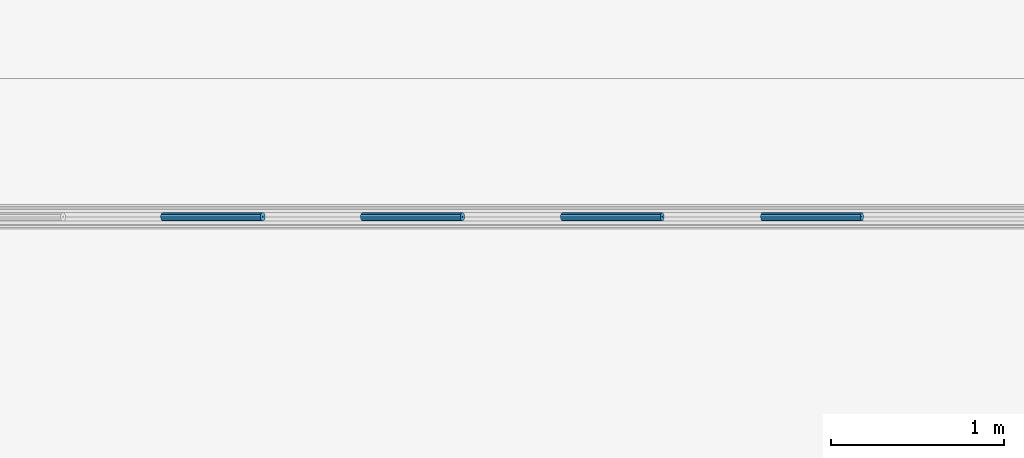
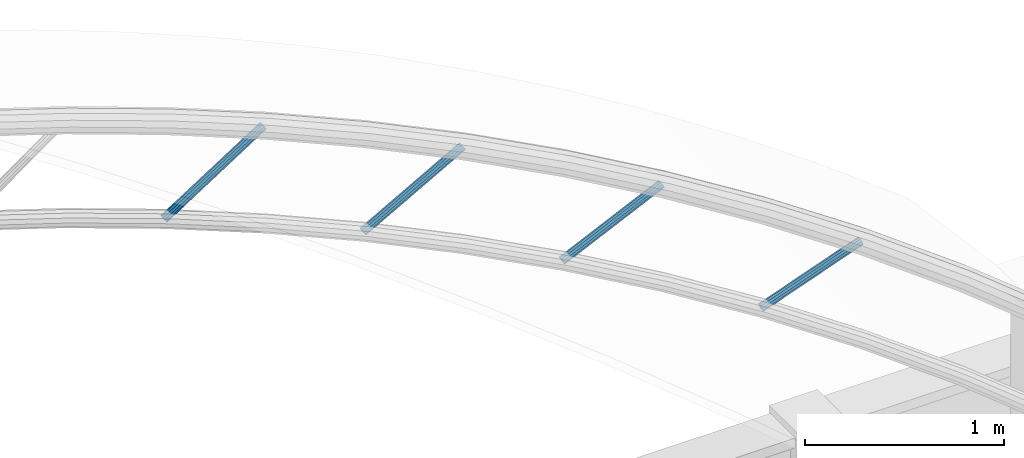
# One storey, part 31 of 151: 4 beams.
"""IFC2X3 building model written with IfcOpenShell, lengths in metres."""

from ifc_helpers import new_model, si_unit, origin, origin_with_axes, place, context, subcontext, project, spatial, faceted_brep, element, save


model = new_model("IFC2X3")

# Units and contexts
model_context = context("Model", 3, precision=1e-05, world=origin_with_axes())
body_context = subcontext(model_context, "Body", "Model", "MODEL_VIEW")
ifc_project = project(units=[si_unit("LENGTHUNIT", "METRE"), si_unit("AREAUNIT", "SQUARE_METRE"), si_unit("VOLUMEUNIT", "CUBIC_METRE"), si_unit("PLANEANGLEUNIT", "RADIAN")], contexts=[model_context])

# Site, building, storey
site_placement = place(None, origin_with_axes())
site = spatial("IfcSite", under=ifc_project, at=site_placement, Name="Predio Los Mangos - Morales, San Martín", CompositionType="ELEMENT")
building_placement = place(site_placement, origin())
building = spatial("IfcBuilding", under=site, at=building_placement, Name="Hogar de Refugio Temporal", CompositionType="ELEMENT")
storey_placement = place(building_placement, origin())
storey = spatial("IfcBuildingStorey", under=building, at=storey_placement, Name="NIVEL 1 (NPT +0.00)", CompositionType="ELEMENT", Elevation=0.0)

# Beams
beam_1_placement = place(storey_placement, origin())
element("IfcBeam", 1, at=beam_1_placement, inside=storey, Name="diag", ObjectType="Viga", context=body_context, shape_type="Brep", body=[
    faceted_brep([(21.3958, 127.0217, 8.401), (21.9733, 127.0217, 8.7715), (21.98, 127.025, 8.7609), (21.4025, 127.025, 8.3905), (21.3908, 127.0125, 8.4087), (21.9683, 127.0125, 8.7792), (21.389, 127.0, 8.4115), (21.9665, 127.0, 8.782), (21.3908, 126.9875, 8.4087), (21.9683, 126.9875, 8.7792), (21.3958, 126.9783, 8.401), (21.9733, 126.9783, 8.7715), (21.4025, 126.975, 8.3905), (21.98, 126.975, 8.7609), (21.4092, 126.9783, 8.38), (21.9867, 126.9783, 8.7504), (21.4142, 126.9875, 8.3723), (21.9917, 126.9875, 8.7427), (21.416, 127.0, 8.3695), (21.9935, 127.0, 8.7399), (21.4142, 127.0125, 8.3723), (21.9917, 127.0125, 8.7427), (21.4092, 127.0217, 8.38), (21.9867, 127.0217, 8.7504), (21.4013, 127.0037, 8.3923), (21.4025, 127.0043, 8.3905), (21.98, 127.0043, 8.7609), (21.9788, 127.0037, 8.7627), (21.4005, 127.0021, 8.3936), (21.978, 127.0021, 8.7641), (21.4002, 127.0, 8.3941), (21.9777, 127.0, 8.7645), (21.4005, 126.9979, 8.3936), (21.978, 126.9979, 8.7641), (21.4013, 126.9963, 8.3923), (21.9788, 126.9963, 8.7627), (21.4025, 126.9957, 8.3905), (21.98, 126.9957, 8.7609), (21.4037, 126.9963, 8.3887), (21.9812, 126.9963, 8.7591), (21.4045, 126.9979, 8.3874), (21.982, 126.9979, 8.7578), (21.4048, 127.0, 8.3869), (21.9823, 127.0, 8.7573), (21.4045, 127.0021, 8.3874), (21.982, 127.0021, 8.7578), (21.4037, 127.0037, 8.3887), (21.9812, 127.0037, 8.7591)], [[[0, 1, 2, 3]], [[4, 5, 1, 0]], [[6, 7, 5, 4]], [[8, 9, 7, 6]], [[10, 11, 9, 8]], [[12, 13, 11, 10]], [[14, 15, 13, 12]], [[16, 17, 15, 14]], [[18, 19, 17, 16]], [[20, 21, 19, 18]], [[22, 23, 21, 20]], [[3, 2, 23, 22]], [[24, 25, 26, 27]], [[28, 24, 27, 29]], [[30, 28, 29, 31]], [[32, 30, 31, 33]], [[34, 32, 33, 35]], [[36, 34, 35, 37]], [[38, 36, 37, 39]], [[40, 38, 39, 41]], [[42, 40, 41, 43]], [[44, 42, 43, 45]], [[46, 44, 45, 47]], [[25, 46, 47, 26]], [[23, 2, 26, 47]], [[10, 8, 32, 34]], [[20, 18, 42, 44]], [[1, 5, 29, 27]], [[13, 15, 39, 37]], [[6, 4, 28, 30]], [[16, 14, 38, 40]], [[0, 3, 25, 24]], [[9, 11, 35, 33]], [[19, 21, 45, 43]], [[12, 10, 34, 36]], [[22, 20, 44, 46]], [[5, 7, 31, 29]], [[15, 17, 41, 39]], [[2, 1, 27, 26]], [[8, 6, 30, 32]], [[18, 16, 40, 42]], [[11, 13, 37, 35]], [[21, 23, 47, 45]], [[4, 0, 24, 28]], [[14, 12, 36, 38]], [[3, 22, 46, 25]], [[7, 9, 33, 31]], [[17, 19, 43, 41]]]),
])
beam_2_placement = place(storey_placement, origin())
element("IfcBeam", 2, at=beam_2_placement, inside=storey, Name="diag", ObjectType="Viga", context=body_context, shape_type="Brep", body=[
    faceted_brep([(22.5514, 127.0217, 7.9187), (23.1289, 127.0217, 8.2407), (23.135, 127.025, 8.2298), (22.5575, 127.025, 7.9077), (22.547, 127.0125, 7.9267), (23.1245, 127.0125, 8.2487), (22.5453, 127.0, 7.9296), (23.1228, 127.0, 8.2517), (22.547, 126.9875, 7.9267), (23.1245, 126.9875, 8.2487), (22.5514, 126.9783, 7.9187), (23.1289, 126.9783, 8.2407), (22.5575, 126.975, 7.9077), (23.135, 126.975, 8.2298), (22.5636, 126.9783, 7.8968), (23.1411, 126.9783, 8.2189), (22.568, 126.9875, 7.8888), (23.1455, 126.9875, 8.2109), (22.5697, 127.0, 7.8859), (23.1472, 127.0, 8.208), (22.568, 127.0125, 7.8888), (23.1455, 127.0125, 8.2109), (22.5636, 127.0217, 7.8968), (23.1411, 127.0217, 8.2189), (22.5565, 127.0037, 7.9096), (22.5575, 127.0043, 7.9077), (23.135, 127.0043, 8.2298), (23.134, 127.0037, 8.2317), (22.5557, 127.0021, 7.911), (23.1332, 127.0021, 8.2331), (22.5554, 127.0, 7.9115), (23.1329, 127.0, 8.2336), (22.5557, 126.9979, 7.911), (23.1332, 126.9979, 8.2331), (22.5565, 126.9963, 7.9096), (23.134, 126.9963, 8.2317), (22.5575, 126.9957, 7.9077), (23.135, 126.9957, 8.2298), (22.5585, 126.9963, 7.9059), (23.136, 126.9963, 8.228), (22.5593, 126.9979, 7.9045), (23.1368, 126.9979, 8.2266), (22.5596, 127.0, 7.904), (23.1371, 127.0, 8.2261), (22.5593, 127.0021, 7.9045), (23.1368, 127.0021, 8.2266), (22.5585, 127.0037, 7.9059), (23.136, 127.0037, 8.228)], [[[0, 1, 2, 3]], [[4, 5, 1, 0]], [[6, 7, 5, 4]], [[8, 9, 7, 6]], [[10, 11, 9, 8]], [[12, 13, 11, 10]], [[14, 15, 13, 12]], [[16, 17, 15, 14]], [[18, 19, 17, 16]], [[20, 21, 19, 18]], [[22, 23, 21, 20]], [[3, 2, 23, 22]], [[24, 25, 26, 27]], [[28, 24, 27, 29]], [[30, 28, 29, 31]], [[32, 30, 31, 33]], [[34, 32, 33, 35]], [[36, 34, 35, 37]], [[38, 36, 37, 39]], [[40, 38, 39, 41]], [[42, 40, 41, 43]], [[44, 42, 43, 45]], [[46, 44, 45, 47]], [[25, 46, 47, 26]], [[23, 2, 26, 47]], [[10, 8, 32, 34]], [[20, 18, 42, 44]], [[1, 5, 29, 27]], [[13, 15, 39, 37]], [[6, 4, 28, 30]], [[16, 14, 38, 40]], [[0, 3, 25, 24]], [[9, 11, 35, 33]], [[19, 21, 45, 43]], [[12, 10, 34, 36]], [[22, 20, 44, 46]], [[5, 7, 31, 29]], [[15, 17, 41, 39]], [[2, 1, 27, 26]], [[8, 6, 30, 32]], [[18, 16, 40, 42]], [[11, 13, 37, 35]], [[21, 23, 47, 45]], [[4, 0, 24, 28]], [[14, 12, 36, 38]], [[3, 22, 46, 25]], [[7, 9, 33, 31]], [[17, 19, 43, 41]]]),
])
beam_3_placement = place(storey_placement, origin())
element("IfcBeam", 3, at=beam_3_placement, inside=storey, Name="diag", ObjectType="Viga", context=body_context, shape_type="Brep", body=[
    faceted_brep([(23.7072, 127.0217, 7.3372), (24.2847, 127.0217, 7.6056), (24.29, 127.025, 7.5943), (23.7125, 127.025, 7.3259), (23.7034, 127.0125, 7.3455), (24.2809, 127.0125, 7.6139), (23.702, 127.0, 7.3485), (24.2795, 127.0, 7.617), (23.7034, 126.9875, 7.3455), (24.2809, 126.9875, 7.6139), (23.7072, 126.9783, 7.3372), (24.2847, 126.9783, 7.6056), (23.7125, 126.975, 7.3259), (24.29, 126.975, 7.5943), (23.7178, 126.9783, 7.3145), (24.2953, 126.9783, 7.583), (23.7216, 126.9875, 7.3062), (24.2991, 126.9875, 7.5747), (23.723, 127.0, 7.3032), (24.3005, 127.0, 7.5716), (23.7216, 127.0125, 7.3062), (24.2991, 127.0125, 7.5747), (23.7178, 127.0217, 7.3145), (24.2953, 127.0217, 7.583), (23.7116, 127.0037, 7.3278), (23.7125, 127.0043, 7.3259), (24.29, 127.0043, 7.5943), (24.2891, 127.0037, 7.5963), (23.7109, 127.0021, 7.3292), (24.2884, 127.0021, 7.5977), (23.7107, 127.0, 7.3298), (24.2882, 127.0, 7.5982), (23.7109, 126.9979, 7.3292), (24.2884, 126.9979, 7.5977), (23.7116, 126.9963, 7.3278), (24.2891, 126.9963, 7.5963), (23.7125, 126.9957, 7.3259), (24.29, 126.9957, 7.5943), (23.7134, 126.9963, 7.3239), (24.2909, 126.9963, 7.5924), (23.7141, 126.9979, 7.3225), (24.2916, 126.9979, 7.5909), (23.7143, 127.0, 7.322), (24.2918, 127.0, 7.5904), (23.7141, 127.0021, 7.3225), (24.2916, 127.0021, 7.5909), (23.7134, 127.0037, 7.3239), (24.2909, 127.0037, 7.5924)], [[[0, 1, 2, 3]], [[4, 5, 1, 0]], [[6, 7, 5, 4]], [[8, 9, 7, 6]], [[10, 11, 9, 8]], [[12, 13, 11, 10]], [[14, 15, 13, 12]], [[16, 17, 15, 14]], [[18, 19, 17, 16]], [[20, 21, 19, 18]], [[22, 23, 21, 20]], [[3, 2, 23, 22]], [[24, 25, 26, 27]], [[28, 24, 27, 29]], [[30, 28, 29, 31]], [[32, 30, 31, 33]], [[34, 32, 33, 35]], [[36, 34, 35, 37]], [[38, 36, 37, 39]], [[40, 38, 39, 41]], [[42, 40, 41, 43]], [[44, 42, 43, 45]], [[46, 44, 45, 47]], [[25, 46, 47, 26]], [[23, 2, 26, 47]], [[10, 8, 32, 34]], [[20, 18, 42, 44]], [[1, 5, 29, 27]], [[13, 15, 39, 37]], [[6, 4, 28, 30]], [[16, 14, 38, 40]], [[0, 3, 25, 24]], [[9, 11, 35, 33]], [[19, 21, 45, 43]], [[12, 10, 34, 36]], [[22, 20, 44, 46]], [[5, 7, 31, 29]], [[15, 17, 41, 39]], [[2, 1, 27, 26]], [[8, 6, 30, 32]], [[18, 16, 40, 42]], [[11, 13, 37, 35]], [[21, 23, 47, 45]], [[4, 0, 24, 28]], [[14, 12, 36, 38]], [[3, 22, 46, 25]], [[7, 9, 33, 31]], [[17, 19, 43, 41]]]),
])
beam_4_placement = place(storey_placement, origin())
element("IfcBeam", 4, at=beam_4_placement, inside=storey, Name="diag", ObjectType="Viga", context=body_context, shape_type="Brep", body=[
    faceted_brep([(24.8633, 127.0217, 6.6451), (25.4408, 127.0217, 6.8526), (25.445, 127.025, 6.8408), (24.8675, 127.025, 6.6333), (24.8602, 127.0125, 6.6537), (25.4377, 127.0125, 6.8612), (24.859, 127.0, 6.6569), (25.4365, 127.0, 6.8643), (24.8602, 126.9875, 6.6537), (25.4377, 126.9875, 6.8612), (24.8633, 126.9783, 6.6451), (25.4408, 126.9783, 6.8526), (24.8675, 126.975, 6.6333), (25.445, 126.975, 6.8408), (24.8717, 126.9783, 6.6216), (25.4492, 126.9783, 6.829), (24.8748, 126.9875, 6.613), (25.4523, 126.9875, 6.8204), (24.876, 127.0, 6.6098), (25.4535, 127.0, 6.8173), (24.8748, 127.0125, 6.613), (25.4523, 127.0125, 6.8204), (24.8717, 127.0217, 6.6216), (25.4492, 127.0217, 6.829), (24.8668, 127.0037, 6.6354), (24.8675, 127.0043, 6.6333), (25.445, 127.0043, 6.8408), (25.4443, 127.0037, 6.8428), (24.8662, 127.0021, 6.6368), (25.4437, 127.0021, 6.8443), (24.866, 127.0, 6.6374), (25.4435, 127.0, 6.8449), (24.8662, 126.9979, 6.6368), (25.4437, 126.9979, 6.8443), (24.8668, 126.9963, 6.6354), (25.4443, 126.9963, 6.8428), (24.8675, 126.9957, 6.6333), (25.445, 126.9957, 6.8408), (24.8682, 126.9963, 6.6313), (25.4457, 126.9963, 6.8388), (24.8688, 126.9979, 6.6298), (25.4463, 126.9979, 6.8373), (24.869, 127.0, 6.6293), (25.4465, 127.0, 6.8368), (24.8688, 127.0021, 6.6298), (25.4463, 127.0021, 6.8373), (24.8682, 127.0037, 6.6313), (25.4457, 127.0037, 6.8388)], [[[0, 1, 2, 3]], [[4, 5, 1, 0]], [[6, 7, 5, 4]], [[8, 9, 7, 6]], [[10, 11, 9, 8]], [[12, 13, 11, 10]], [[14, 15, 13, 12]], [[16, 17, 15, 14]], [[18, 19, 17, 16]], [[20, 21, 19, 18]], [[22, 23, 21, 20]], [[3, 2, 23, 22]], [[24, 25, 26, 27]], [[28, 24, 27, 29]], [[30, 28, 29, 31]], [[32, 30, 31, 33]], [[34, 32, 33, 35]], [[36, 34, 35, 37]], [[38, 36, 37, 39]], [[40, 38, 39, 41]], [[42, 40, 41, 43]], [[44, 42, 43, 45]], [[46, 44, 45, 47]], [[25, 46, 47, 26]], [[23, 2, 26, 47]], [[10, 8, 32, 34]], [[20, 18, 42, 44]], [[1, 5, 29, 27]], [[13, 15, 39, 37]], [[6, 4, 28, 30]], [[16, 14, 38, 40]], [[0, 3, 25, 24]], [[9, 11, 35, 33]], [[19, 21, 45, 43]], [[12, 10, 34, 36]], [[22, 20, 44, 46]], [[5, 7, 31, 29]], [[15, 17, 41, 39]], [[2, 1, 27, 26]], [[8, 6, 30, 32]], [[18, 16, 40, 42]], [[11, 13, 37, 35]], [[21, 23, 47, 45]], [[4, 0, 24, 28]], [[14, 12, 36, 38]], [[3, 22, 46, 25]], [[7, 9, 33, 31]], [[17, 19, 43, 41]]]),
])

save(model, "model.ifc")
